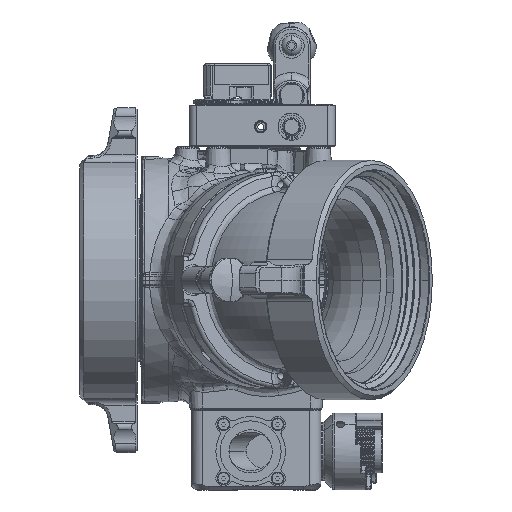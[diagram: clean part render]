
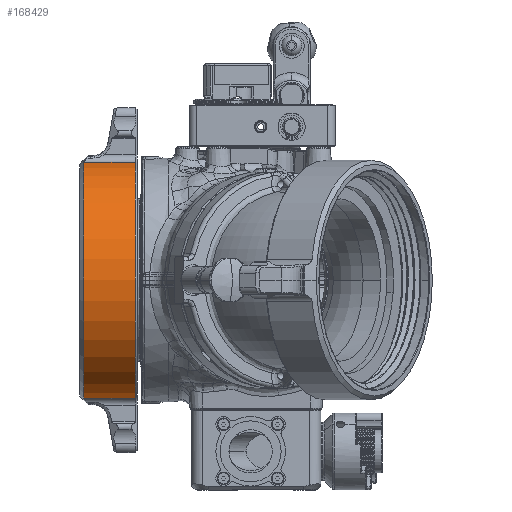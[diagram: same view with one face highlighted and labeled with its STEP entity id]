
A CAD part, front view. The second image highlights one B-rep face of the part: STEP entity #168429.
In plain terms, the highlighted cylindrical face has radius 98.425 mm (diameter 196.85 mm), a partial arc.
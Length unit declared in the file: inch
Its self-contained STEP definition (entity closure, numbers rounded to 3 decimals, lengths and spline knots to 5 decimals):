
#10853 = DIRECTION ( 'NONE',  ( 0., 0., -1. ) ) ;
#10940 = VECTOR ( 'NONE', #102172, 39.37008 ) ;
#15438 = EDGE_CURVE ( 'NONE', #234974, #224126, #225052, .T. ) ;
#39363 = AXIS2_PLACEMENT_3D ( 'NONE', #101680, #256285, #146167 ) ;
#49349 = DIRECTION ( 'NONE',  ( 1., 0., 0. ) ) ;
#65183 = LINE ( 'NONE', #246434, #234511 ) ;
#74977 = CYLINDRICAL_SURFACE ( 'NONE', #228116, 3.875 ) ;
#101680 = CARTESIAN_POINT ( 'NONE',  ( -4.983, 0., 0. ) ) ;
#102172 = DIRECTION ( 'NONE',  ( 1., 0., 0. ) ) ;
#116238 = CARTESIAN_POINT ( 'NONE',  ( -4.983, -0.68106, 3.81468 ) ) ;
#117824 = DIRECTION ( 'NONE',  ( 1., 0., 0. ) ) ;
#118174 = ORIENTED_EDGE ( 'NONE', *, *, #122295, .F. ) ;
#122295 = EDGE_CURVE ( 'NONE', #279794, #234974, #154248, .T. ) ;
#122871 = DIRECTION ( 'NONE',  ( 0., 0., 1. ) ) ;
#127334 = EDGE_LOOP ( 'NONE', ( #174947, #169462, #258210, #118174 ) ) ;
#129958 = AXIS2_PLACEMENT_3D ( 'NONE', #171188, #255348, #122871 ) ;
#146167 = DIRECTION ( 'NONE',  ( 0., 0., -1. ) ) ;
#154248 = CIRCLE ( 'NONE', #39363, 3.875 ) ;
#159490 = CIRCLE ( 'NONE', #129958, 3.875 ) ;
#162609 = CARTESIAN_POINT ( 'NONE',  ( -4.983, -0.68106, -3.81468 ) ) ;
#163317 = CARTESIAN_POINT ( 'NONE',  ( -5.158, 0., 0. ) ) ;
#168429 = ADVANCED_FACE ( 'NONE', ( #189471 ), #74977, .T. ) ;
#169462 = ORIENTED_EDGE ( 'NONE', *, *, #254755, .T. ) ;
#171188 = CARTESIAN_POINT ( 'NONE',  ( -3.3075, 0., 0. ) ) ;
#174947 = ORIENTED_EDGE ( 'NONE', *, *, #240391, .T. ) ;
#186259 = CARTESIAN_POINT ( 'NONE',  ( -5.158, -0.68106, 3.81468 ) ) ;
#186604 = CARTESIAN_POINT ( 'NONE',  ( -3.3075, -0.68106, -3.81468 ) ) ;
#189471 = FACE_OUTER_BOUND ( 'NONE', #127334, .T. ) ;
#224126 = VERTEX_POINT ( 'NONE', #240870 ) ;
#225052 = LINE ( 'NONE', #186259, #10940 ) ;
#228116 = AXIS2_PLACEMENT_3D ( 'NONE', #163317, #117824, #10853 ) ;
#234511 = VECTOR ( 'NONE', #49349, 39.37008 ) ;
#234974 = VERTEX_POINT ( 'NONE', #116238 ) ;
#240391 = EDGE_CURVE ( 'NONE', #279794, #255864, #65183, .T. ) ;
#240870 = CARTESIAN_POINT ( 'NONE',  ( -3.3075, -0.68106, 3.81468 ) ) ;
#246434 = CARTESIAN_POINT ( 'NONE',  ( -5.158, -0.68106, -3.81468 ) ) ;
#254755 = EDGE_CURVE ( 'NONE', #255864, #224126, #159490, .T. ) ;
#255348 = DIRECTION ( 'NONE',  ( -1., 0., 0. ) ) ;
#255864 = VERTEX_POINT ( 'NONE', #186604 ) ;
#256285 = DIRECTION ( 'NONE',  ( -1., 0., 0. ) ) ;
#258210 = ORIENTED_EDGE ( 'NONE', *, *, #15438, .F. ) ;
#279794 = VERTEX_POINT ( 'NONE', #162609 ) ;
